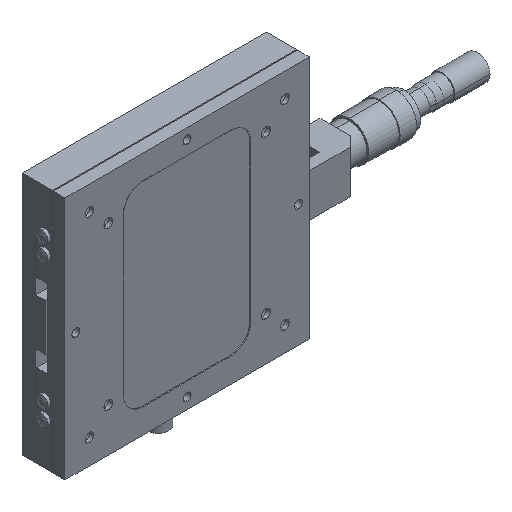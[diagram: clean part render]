
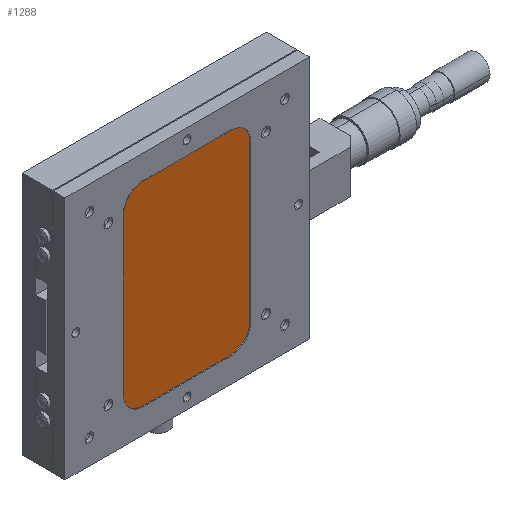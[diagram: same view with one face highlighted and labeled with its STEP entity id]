
A CAD part, isometric view. The second image highlights one B-rep face of the part: STEP entity #1288.
In plain terms, the highlighted planar face has unit normal (0, -1, 0).
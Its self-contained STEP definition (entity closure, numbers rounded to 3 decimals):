
#1004 = EDGE_LOOP ( 'NONE', ( #1005, #1009, #1012, #1365, #1367, #1370, #1373, #1376 ) ) ;
#1005 = ORIENTED_EDGE ( 'NONE', *, *, #1006, .F. ) ;
#1006 = EDGE_CURVE ( 'NONE', #1007, #1008, #4888, .T. ) ;
#1007 = VERTEX_POINT ( 'NONE', #4884 ) ;
#1008 = VERTEX_POINT ( 'NONE', #4883 ) ;
#1009 = ORIENTED_EDGE ( 'NONE', *, *, #1010, .F. ) ;
#1010 = EDGE_CURVE ( 'NONE', #1011, #1007, #4882, .T. ) ;
#1011 = VERTEX_POINT ( 'NONE', #4878 ) ;
#1012 = ORIENTED_EDGE ( 'NONE', *, *, #1212, .F. ) ;
#1212 = EDGE_CURVE ( 'NONE', #1242, #1011, #5232, .T. ) ;
#1213 = VERTEX_POINT ( 'NONE', #5228 ) ;
#1242 = VERTEX_POINT ( 'NONE', #5431 ) ;
#1288 = ADVANCED_FACE ( 'NONE', ( #5384 ), #5383, .T. ) ;
#1365 = ORIENTED_EDGE ( 'NONE', *, *, #1366, .F. ) ;
#1366 = EDGE_CURVE ( 'NONE', #1213, #1242, #5625, .T. ) ;
#1367 = ORIENTED_EDGE ( 'NONE', *, *, #1368, .F. ) ;
#1368 = EDGE_CURVE ( 'NONE', #1369, #1213, #5621, .T. ) ;
#1369 = VERTEX_POINT ( 'NONE', #5616 ) ;
#1370 = ORIENTED_EDGE ( 'NONE', *, *, #1371, .F. ) ;
#1371 = EDGE_CURVE ( 'NONE', #1372, #1369, #5615, .T. ) ;
#1372 = VERTEX_POINT ( 'NONE', #5611 ) ;
#1373 = ORIENTED_EDGE ( 'NONE', *, *, #1374, .F. ) ;
#1374 = EDGE_CURVE ( 'NONE', #1375, #1372, #5610, .T. ) ;
#1375 = VERTEX_POINT ( 'NONE', #5605 ) ;
#1376 = ORIENTED_EDGE ( 'NONE', *, *, #1377, .F. ) ;
#1377 = EDGE_CURVE ( 'NONE', #1008, #1375, #5604, .T. ) ;
#4765 = CARTESIAN_POINT ( 'NONE',  ( -22.5, 0.5, -40. ) ) ;
#4878 = CARTESIAN_POINT ( 'NONE',  ( 22.5, 0.5, -50. ) ) ;
#4879 = DIRECTION ( 'NONE',  ( -1., 0., 0. ) ) ;
#4880 = VECTOR ( 'NONE', #4879, 1000. ) ;
#4881 = CARTESIAN_POINT ( 'NONE',  ( 22.5, 0.5, -50. ) ) ;
#4882 = LINE ( 'NONE', #4881, #4880 ) ;
#4883 = CARTESIAN_POINT ( 'NONE',  ( -32.5, 0.5, -40. ) ) ;
#4884 = CARTESIAN_POINT ( 'NONE',  ( -22.5, 0.5, -50. ) ) ;
#4885 = DIRECTION ( 'NONE',  ( 0., 0., 1. ) ) ;
#4886 = DIRECTION ( 'NONE',  ( 0., 1., 0. ) ) ;
#4887 = AXIS2_PLACEMENT_3D ( 'NONE', #4765, #4886, #4885 ) ;
#4888 = CIRCLE ( 'NONE', #4887, 10. ) ;
#5228 = CARTESIAN_POINT ( 'NONE',  ( 32.5, 0.5, 40. ) ) ;
#5229 = DIRECTION ( 'NONE',  ( 0., 0., 1. ) ) ;
#5230 = DIRECTION ( 'NONE',  ( 0., 1., 0. ) ) ;
#5231 = AXIS2_PLACEMENT_3D ( 'NONE', #5238, #5230, #5229 ) ;
#5232 = CIRCLE ( 'NONE', #5231, 10. ) ;
#5238 = CARTESIAN_POINT ( 'NONE',  ( 22.5, 0.5, -40. ) ) ;
#5379 = DIRECTION ( 'NONE',  ( 0., 0., 1. ) ) ;
#5380 = DIRECTION ( 'NONE',  ( 0., -1., 0. ) ) ;
#5381 = CARTESIAN_POINT ( 'NONE',  ( -22.5, 0.5, -40. ) ) ;
#5382 = AXIS2_PLACEMENT_3D ( 'NONE', #5381, #5380, #5379 ) ;
#5383 = PLANE ( 'NONE',  #5382 ) ;
#5384 = FACE_OUTER_BOUND ( 'NONE', #1004, .T. ) ;
#5431 = CARTESIAN_POINT ( 'NONE',  ( 32.5, 0.5, -40. ) ) ;
#5601 = DIRECTION ( 'NONE',  ( 0., 0., 1. ) ) ;
#5602 = VECTOR ( 'NONE', #5601, 1000. ) ;
#5603 = CARTESIAN_POINT ( 'NONE',  ( -32.5, 0.5, -40. ) ) ;
#5604 = LINE ( 'NONE', #5603, #5602 ) ;
#5605 = CARTESIAN_POINT ( 'NONE',  ( -32.5, 0.5, 40. ) ) ;
#5606 = DIRECTION ( 'NONE',  ( 0., 0., 1. ) ) ;
#5607 = DIRECTION ( 'NONE',  ( 0., 1., 0. ) ) ;
#5608 = CARTESIAN_POINT ( 'NONE',  ( -22.5, 0.5, 40. ) ) ;
#5609 = AXIS2_PLACEMENT_3D ( 'NONE', #5608, #5607, #5606 ) ;
#5610 = CIRCLE ( 'NONE', #5609, 10. ) ;
#5611 = CARTESIAN_POINT ( 'NONE',  ( -22.5, 0.5, 50. ) ) ;
#5612 = DIRECTION ( 'NONE',  ( 1., 0., 0. ) ) ;
#5613 = VECTOR ( 'NONE', #5612, 1000. ) ;
#5614 = CARTESIAN_POINT ( 'NONE',  ( 22.5, 0.5, 50. ) ) ;
#5615 = LINE ( 'NONE', #5614, #5613 ) ;
#5616 = CARTESIAN_POINT ( 'NONE',  ( 22.5, 0.5, 50. ) ) ;
#5617 = DIRECTION ( 'NONE',  ( 0., 0., 1. ) ) ;
#5618 = DIRECTION ( 'NONE',  ( 0., 1., 0. ) ) ;
#5619 = CARTESIAN_POINT ( 'NONE',  ( 22.5, 0.5, 40. ) ) ;
#5620 = AXIS2_PLACEMENT_3D ( 'NONE', #5619, #5618, #5617 ) ;
#5621 = CIRCLE ( 'NONE', #5620, 10. ) ;
#5622 = DIRECTION ( 'NONE',  ( 0., 0., -1. ) ) ;
#5623 = VECTOR ( 'NONE', #5622, 1000. ) ;
#5624 = CARTESIAN_POINT ( 'NONE',  ( 32.5, 0.5, -40. ) ) ;
#5625 = LINE ( 'NONE', #5624, #5623 ) ;
